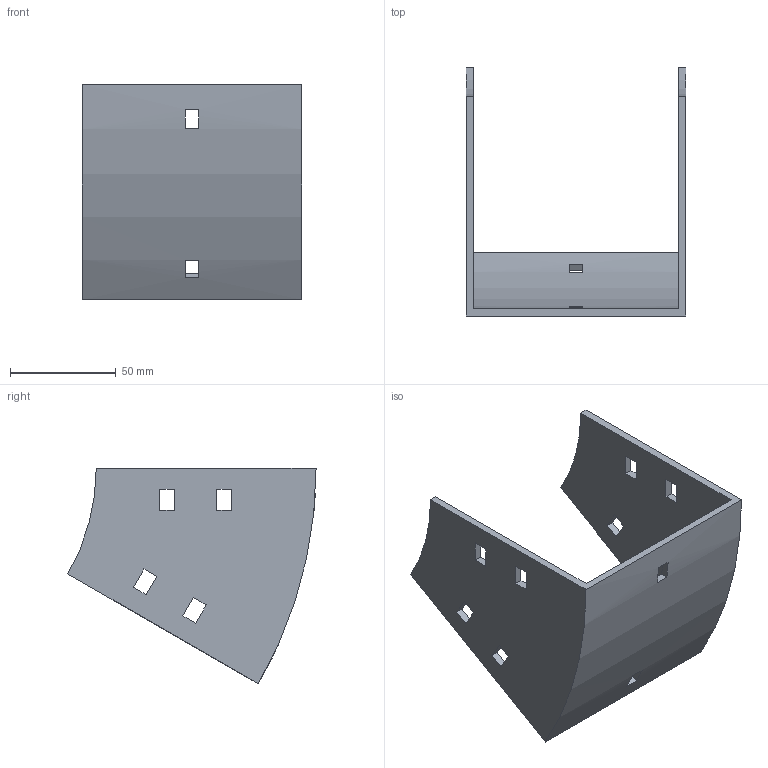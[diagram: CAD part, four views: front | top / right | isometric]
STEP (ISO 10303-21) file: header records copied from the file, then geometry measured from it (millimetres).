
FILE_DESCRIPTION (( 'STEP AP214' ), '1' );
FILE_NAME ('32B1D100.step', '2025-02-21T09:42:24', ( '' ), ( '' ), 'SwSTEP 2.0', 'SolidWorks 2023', '' );
FILE_SCHEMA (( 'AUTOMOTIVE_DESIGN' ));
Length unit declared in the file: millimetre
Products named in the file (1): 32B1D100
Bounding box: 104 x 117.4 x 102 mm (x, y, z)
Volume: 91520.8 mm3; surface area: 55975.3 mm2
Topology: 1 solids, 1 shells, 50 faces, 144 edges, 96 vertices
Faces by surface type: plane 46, cylinder 4
Entity records: 1687 total; most frequent: CARTESIAN_POINT 291, ORIENTED_EDGE 288, DIRECTION 262, EDGE_CURVE 144, LINE 128, VECTOR 128, VERTEX_POINT 96, EDGE_LOOP 70
